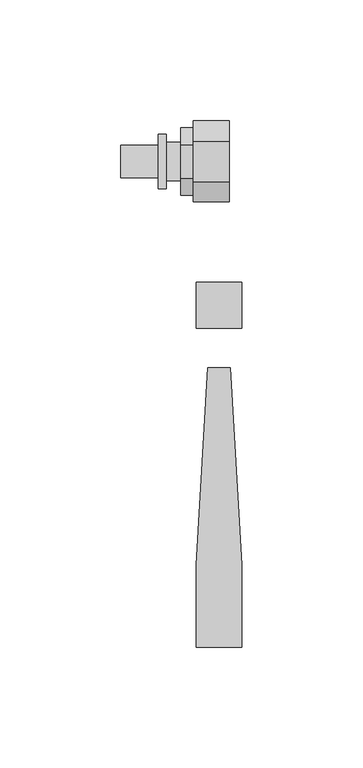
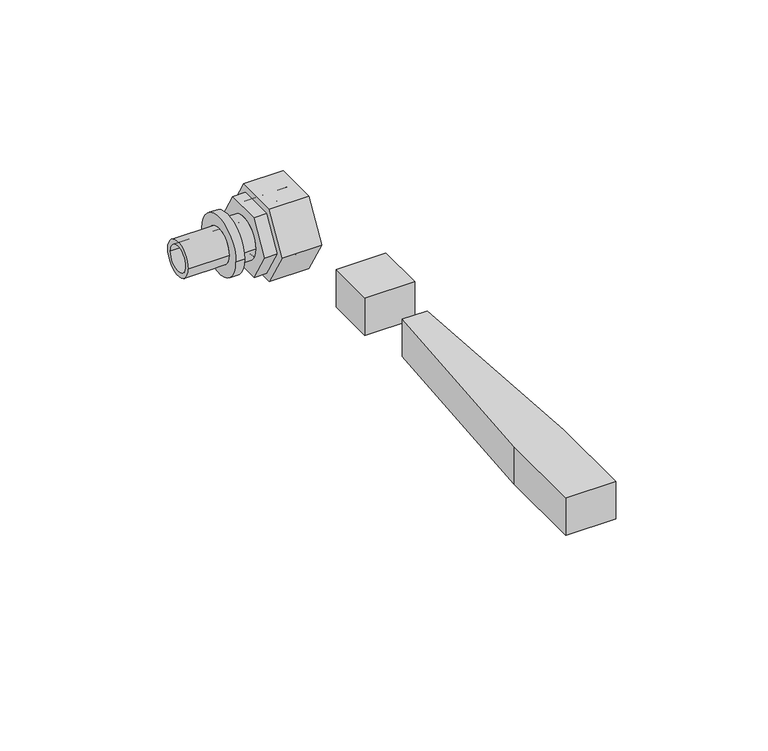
"""IFC4 building model written with IfcOpenShell, lengths in millimetres: pipe fitting geometry, RAUTITAN_LX_C.Coupling : RTI LX/PX C.C DN."""

from ifc_helpers import new_model, si_unit, point, frame, origin, origin_with_axes, origin_2d, place, context, project, spatial, polyline, circle_curve, trimmed, segment, composite_curve, outline, extrude, source, transform, mapped, element, save
from ifc_brep_helpers import plane_surface, cylinder_surface, revolved_surface, advanced_brep


def pipe_fitting_281267be(model_context):
    return source(origin(), model_context, "Body", "SolidModel", [
        extrude(outline(polyline([(8.3715789, -14.5), (-8.3715789, -14.5), (-16.7431578, 0.0), (-8.3715789, 14.5), (8.3715789, 14.5), (16.7431578, 0.0), (8.3715789, -14.5)]), holes=[composite_curve([segment(trimmed(circle_curve(origin_2d(), 11.05), [point((-11.05, 0.0))], [point((11.05, 0.0))], True, "CARTESIAN"), True, "CONTINUOUS"), segment(trimmed(circle_curve(origin_2d(), 11.05), [point((11.05, 0.0))], [point((-11.05, 0.0))], True, "CARTESIAN"), True, "CONTINUOUS")], self_intersect=False)]), frame((14.3, 0.0, 0.0), z_axis=(1.0, 0.0, 0.0), x_axis=(0.0, 1.0, 0.0)), (0.0, 0.0, 1.0), 15.0),
        advanced_brep(
        [(14.3, 6.9570707, -12.05), (9.3, 6.9570707, -12.05), (9.3, 13.9141415, 0.0), (14.3, 13.9141415, 0.0), (9.3, 6.9570707, 12.05), (14.3, 6.9570707, 12.05), (9.3, -6.9570707, 12.05), (14.3, -6.9570707, 12.05), (9.3, -13.9141415, 0.0), (14.3, -13.9141415, 0.0), (9.3, -6.9570707, -12.05), (14.3, -6.9570707, -12.05), (-15.5, 4.95, 0.0), (-15.5, -4.95, 0.0), (9.3, -4.95, 0.0), (9.3, 4.95, 0.0), (0.0, 6.75, 0.0), (0.0, -6.75, 0.0), (-15.5, -6.75, 0.0), (-15.5, 6.75, 0.0), (3.3, 11.25, 0.0), (3.3, -11.25, 0.0), (0.0, -11.25, 0.0), (0.0, 11.25, 0.0), (9.3, 8.05, 0.0), (9.3, -8.05, 0.0), (3.3, -8.05, 0.0), (3.3, 8.05, 0.0), (24.8, 11.05, 0.0), (24.8, -11.05, 0.0), (14.3, -11.05, 0.0), (14.3, 11.05, 0.0), (12.0, 7.65, 0.0), (12.0, -7.65, 0.0), (24.8, -7.65, 0.0), (24.8, 7.65, 0.0)],
        [
            (0, 1),
            (1, 2),
            (2, 3),
            (3, 0),
            (2, 4),
            (4, 5),
            (5, 3),
            (4, 6),
            (6, 7),
            (7, 5),
            (6, 8),
            (8, 9),
            (9, 7),
            (8, 10),
            (10, 11),
            (11, 9),
            (0, 11),
            (10, 1),
            (12, 13, circle_curve(frame((-15.5, 0.0, 0.0), z_axis=(-1.0, 0.0, 0.0), x_axis=(0.0, -1.0, 0.0)), 4.95)),
            (13, 14),
            (14, 15, circle_curve(frame((9.3, 0.0, 0.0), z_axis=(1.0, 0.0, 0.0), x_axis=(0.0, -1.0, 0.0)), 4.95)),
            (15, 12),
            (16, 17, circle_curve(frame((0.0, 0.0, 0.0), z_axis=(-1.0, 0.0, 0.0), x_axis=(0.0, -1.0, 0.0)), 6.75)),
            (17, 18),
            (18, 19, circle_curve(frame((-15.5, 0.0, 0.0), z_axis=(1.0, 0.0, 0.0), x_axis=(0.0, -1.0, 0.0)), 6.75)),
            (19, 16),
            (20, 21, circle_curve(frame((3.3, 0.0, 0.0), z_axis=(-1.0, 0.0, 0.0), x_axis=(0.0, -1.0, 0.0)), 11.25)),
            (21, 22),
            (22, 23, circle_curve(frame((0.0, 0.0, 0.0), z_axis=(1.0, 0.0, 0.0), x_axis=(0.0, -1.0, 0.0)), 11.25)),
            (23, 20),
            (24, 25, circle_curve(frame((9.3, 0.0, 0.0), z_axis=(-1.0, 0.0, 0.0), x_axis=(0.0, -1.0, 0.0)), 8.05)),
            (25, 26),
            (26, 27, circle_curve(frame((3.3, 0.0, 0.0), z_axis=(1.0, 0.0, 0.0), x_axis=(0.0, -1.0, 0.0)), 8.05)),
            (27, 24),
            (28, 29, circle_curve(frame((24.8, 0.0, 0.0), z_axis=(-1.0, 0.0, 0.0), x_axis=(0.0, -1.0, 0.0)), 11.05)),
            (29, 30),
            (30, 31, circle_curve(frame((14.3, 0.0, 0.0), z_axis=(1.0, 0.0, 0.0), x_axis=(0.0, -1.0, 0.0)), 11.05)),
            (31, 28),
            (32, 33, circle_curve(frame((12.0, 0.0, 0.0), z_axis=(-1.0, 0.0, 0.0), x_axis=(0.0, -1.0, 0.0)), 7.65)),
            (33, 34),
            (34, 35, circle_curve(frame((24.8, 0.0, 0.0), z_axis=(1.0, 0.0, 0.0), x_axis=(0.0, -1.0, 0.0)), 7.65)),
            (35, 32),
            (14, 33),
            (32, 15),
            (13, 12, circle_curve(frame((-15.5, 0.0, 0.0), z_axis=(-1.0, 0.0, 0.0), x_axis=(0.0, 1.0, 0.0)), 4.95)),
            (15, 14, circle_curve(frame((9.3, 0.0, 0.0), z_axis=(1.0, 0.0, 0.0), x_axis=(0.0, 1.0, 0.0)), 4.95)),
            (18, 19, circle_curve(frame((-15.5, 0.0, 0.0), z_axis=(-1.0, 0.0, 0.0), x_axis=(0.0, 1.0, 0.0)), 6.75)),
            (17, 16, circle_curve(frame((0.0, 0.0, 0.0), z_axis=(-1.0, 0.0, 0.0), x_axis=(0.0, 1.0, 0.0)), 6.75)),
            (22, 23, circle_curve(frame((0.0, 0.0, 0.0), z_axis=(-1.0, 0.0, 0.0), x_axis=(0.0, 1.0, 0.0)), 11.25)),
            (21, 20, circle_curve(frame((3.3, 0.0, 0.0), z_axis=(-1.0, 0.0, 0.0), x_axis=(0.0, 1.0, 0.0)), 11.25)),
            (26, 27, circle_curve(frame((3.3, 0.0, 0.0), z_axis=(-1.0, 0.0, 0.0), x_axis=(0.0, 1.0, 0.0)), 8.05)),
            (25, 24, circle_curve(frame((9.3, 0.0, 0.0), z_axis=(-1.0, 0.0, 0.0), x_axis=(0.0, 1.0, 0.0)), 8.05)),
            (29, 28, circle_curve(frame((24.8, 0.0, 0.0), z_axis=(-1.0, 0.0, 0.0), x_axis=(0.0, 1.0, 0.0)), 11.05)),
            (31, 30, circle_curve(frame((14.3, 0.0, 0.0), z_axis=(1.0, 0.0, 0.0), x_axis=(0.0, 1.0, 0.0)), 11.05)),
            (34, 35, circle_curve(frame((24.8, 0.0, 0.0), z_axis=(-1.0, 0.0, 0.0), x_axis=(0.0, 1.0, 0.0)), 7.65)),
            (33, 32, circle_curve(frame((12.0, 0.0, 0.0), z_axis=(-1.0, 0.0, 0.0), x_axis=(0.0, 1.0, 0.0)), 7.65)),
        ],
        [
            plane_surface(frame((9.3, 6.9570707, -12.05), z_axis=(0.0, 0.8660254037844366, -0.5000000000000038), x_axis=(0.0, 0.5000000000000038, 0.8660254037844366))),
            plane_surface(frame((9.3, 13.9141415, 0.0), z_axis=(0.0, 0.8660254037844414, 0.49999999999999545), x_axis=(0.0, -0.49999999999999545, 0.8660254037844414))),
            plane_surface(frame((9.3, 6.9570707, 12.05), z_axis=(0.0, 0.0, 1.0), x_axis=(0.0, -1.0, 0.0))),
            plane_surface(frame((9.3, -6.9570707, 12.05), z_axis=(0.0, -0.8660254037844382, 0.5000000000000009), x_axis=(0.0, -0.5000000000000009, -0.8660254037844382))),
            plane_surface(frame((9.3, -13.9141415, 0.0), z_axis=(0.0, -0.8660254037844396, -0.4999999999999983), x_axis=(0.0, 0.4999999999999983, -0.8660254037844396))),
            plane_surface(frame((9.3, -6.9570707, -12.05), z_axis=(0.0, 0.0, -1.0), x_axis=(0.0, 1.0, 0.0))),
            revolved_surface(polyline([(9.3, -4.95, 0.0), (-15.5, -4.95, 0.0)]), (0.0, 0.0, 0.0), (1.0, 0.0, 0.0)),
            cylinder_surface(frame((0.0, 0.0, 0.0), z_axis=(1.0, 0.0, 0.0), x_axis=(0.0, -1.0, 0.0)), 6.75),
            cylinder_surface(frame((0.0, 0.0, 0.0), z_axis=(1.0, 0.0, 0.0), x_axis=(0.0, -1.0, 0.0)), 11.25),
            cylinder_surface(frame((0.0, 0.0, 0.0), z_axis=(1.0, 0.0, 0.0), x_axis=(0.0, -1.0, 0.0)), 8.05),
            cylinder_surface(frame((0.0, 0.0, 0.0), z_axis=(1.0, 0.0, 0.0), x_axis=(0.0, -1.0, 0.0)), 11.05),
            revolved_surface(polyline([(24.8, -7.65, 0.0), (12.0, -7.65, 0.0)]), (0.0, 0.0, 0.0), (1.0, 0.0, 0.0)),
            revolved_surface(polyline([(12.0, -7.65, 0.0), (9.3, -4.95, 0.0)]), (0.0, 0.0, 0.0), (1.0, 0.0, 0.0)),
            revolved_surface(polyline([(9.3, 4.95, 0.0), (-15.5, 4.95, 0.0)]), (0.0, 0.0, 0.0), (1.0, 0.0, 0.0)),
            plane_surface(frame((-15.5, 0.0, 0.0), z_axis=(-1.0, 0.0, 0.0), x_axis=(0.0, 1.0, 0.0))),
            cylinder_surface(frame((0.0, 0.0, 0.0), z_axis=(1.0, 0.0, 0.0), x_axis=(0.0, 1.0, 0.0)), 6.75),
            plane_surface(frame((0.0, 0.0, 0.0), z_axis=(-1.0, 0.0, 0.0), x_axis=(0.0, 1.0, 0.0))),
            cylinder_surface(frame((0.0, 0.0, 0.0), z_axis=(1.0, 0.0, 0.0), x_axis=(0.0, 1.0, 0.0)), 11.25),
            plane_surface(frame((3.3, 0.0, 0.0), z_axis=(1.0, 0.0, 0.0), x_axis=(0.0, 1.0, 0.0))),
            cylinder_surface(frame((0.0, 0.0, 0.0), z_axis=(1.0, 0.0, 0.0), x_axis=(0.0, 1.0, 0.0)), 8.05),
            cylinder_surface(frame((0.0, 0.0, 0.0), z_axis=(1.0, 0.0, 0.0), x_axis=(0.0, 1.0, 0.0)), 11.05),
            plane_surface(frame((24.8, 0.0, 0.0), z_axis=(1.0, 0.0, 0.0), x_axis=(0.0, 1.0, 0.0))),
            revolved_surface(polyline([(24.8, 7.65, 0.0), (12.0, 7.65, 0.0)]), (0.0, 0.0, 0.0), (1.0, 0.0, 0.0)),
            revolved_surface(polyline([(12.0, 7.65, 0.0), (9.3, 4.95, 0.0)]), (0.0, 0.0, 0.0), (1.0, 0.0, 0.0)),
            plane_surface(frame((14.3, -6.9570707, -12.05), z_axis=(1.0, 0.0, 0.0), x_axis=(0.0, 1.0, 0.0))),
            plane_surface(frame((9.3, -5.2250199, -9.05), z_axis=(-1.0, 0.0, 0.0), x_axis=(0.0, 1.0, 0.0))),
        ],
        [
            (0, [[1, 2, 3, 4]]),
            (1, [[-3, 5, 6, 7]]),
            (2, [[-6, 8, 9, 10]]),
            (3, [[-9, 11, 12, 13]]),
            (4, [[-12, 14, 15, 16]]),
            (5, [[-1, 17, -15, 18]]),
            (6, [[19, 20, 21, 22]]),
            (7, [[23, 24, 25, 26]]),
            (8, [[27, 28, 29, 30]]),
            (9, [[31, 32, 33, 34]]),
            (10, [[35, 36, 37, 38]]),
            (11, [[39, 40, 41, 42]]),
            (12, [[-21, 43, -39, 44]]),
            (13, [[-20, 45, -22, 46]]),
            (14, [[-25, 47], [-19, -45]]),
            (15, [[-24, 48, -26, -47]]),
            (16, [[-29, 49], [-23, -48]]),
            (17, [[-28, 50, -30, -49]]),
            (18, [[-27, -50], [-33, 51]]),
            (19, [[-32, 52, -34, -51]]),
            (20, [[53, -38, 54, -36]]),
            (21, [[-35, -53], [-41, 55]]),
            (22, [[-40, 56, -42, -55]]),
            (23, [[-43, -46, -44, -56]]),
            (24, [[-4, -7, -10, -13, -16, -17], [-37, -54]]),
            (25, [[-2, -18, -14, -11, -8, -5], [-31, -52]]),
        ],
    ),
        extrude(outline(polyline([(29.7088895, -85.3166715), (34.4177791, -166.6553807), (34.4177791, -200.6844652), (15.5822209, -200.6844652), (15.5822209, -166.6553807), (20.2911105, -85.3166715), (29.7088895, -85.3166715)])), origin_with_axes(), (0.0, 0.0, 1.0), 15.0),
        extrude(outline(polyline([(34.4177791, -50.0), (34.4177791, -68.8355582), (15.5822209, -68.8355582), (15.5822209, -50.0), (34.4177791, -50.0)])), origin_with_axes(), (0.0, 0.0, 1.0), 15.0),
    ])


if __name__ == "__main__":
    model = new_model("IFC4")
    model_context = context("Model", 3, world=origin())
    ifc_project = project(units=[si_unit("LENGTHUNIT", "METRE", prefix="MILLI")], contexts=[model_context])
    site = spatial("IfcSite", under=ifc_project)
    building = spatial("IfcBuilding", under=site)
    placement = place(None, origin())
    pipe_fitting_shape = pipe_fitting_281267be(model_context)
    element("IfcPipeFitting", 1, ObjectType="RAUTITAN_LX_C.Coupling : RTI LX/PX C.C DN", at=placement, inside=building, context=model_context, shape_type="MappedRepresentation", body=[
        mapped(pipe_fitting_shape, transform((0.0, 0.0, 0.0), x_axis=(1.0, 0.0, 0.0), y_axis=(0.0, 1.0, 0.0), z_axis=(0.0, 0.0, 1.0))),
    ])
    save(model, "model.ifc")
